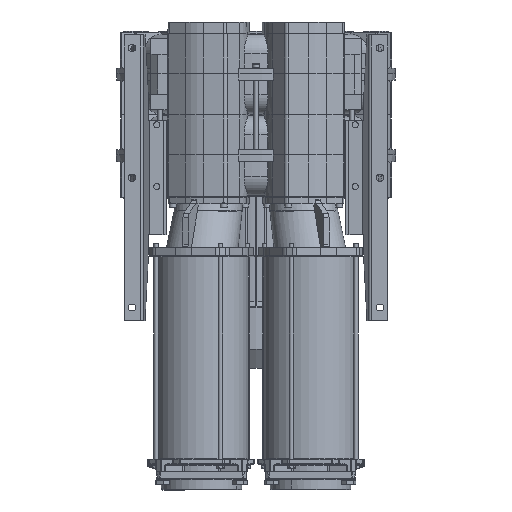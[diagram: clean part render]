
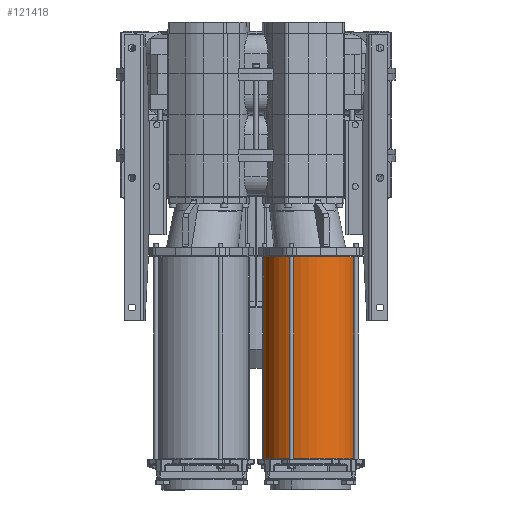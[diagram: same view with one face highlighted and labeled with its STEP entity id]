
A CAD part, front view. The second image highlights one B-rep face of the part: STEP entity #121418.
In plain terms, the highlighted cylindrical face has radius 90 mm (diameter 180 mm), a full revolution.
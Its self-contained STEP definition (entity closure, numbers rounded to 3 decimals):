
#14040 = VERTEX_POINT ( 'NONE', #108750 ) ;
#20141 = DIRECTION ( 'NONE',  ( 0., 0., 1. ) ) ;
#20564 = EDGE_CURVE ( 'NONE', #126321, #126321, #138572, .T. ) ;
#30412 = ORIENTED_EDGE ( 'NONE', *, *, #20564, .T. ) ;
#35768 = CIRCLE ( 'NONE', #65590, 90. ) ;
#39186 = CARTESIAN_POINT ( 'NONE',  ( 104.777, -252.953, -415.5 ) ) ;
#41919 = FACE_OUTER_BOUND ( 'NONE', #118756, .T. ) ;
#55857 = CARTESIAN_POINT ( 'NONE',  ( 104.777, -252.953, -416. ) ) ;
#56625 = DIRECTION ( 'NONE',  ( -0.665, -0.747, 0. ) ) ;
#65590 = AXIS2_PLACEMENT_3D ( 'NONE', #142727, #96136, #96893 ) ;
#72406 = EDGE_LOOP ( 'NONE', ( #30412 ) ) ;
#74116 = DIRECTION ( 'NONE',  ( 0.665, 0.747, 0. ) ) ;
#88299 = CARTESIAN_POINT ( 'NONE',  ( 164.658, -185.766, -415.5 ) ) ;
#96136 = DIRECTION ( 'NONE',  ( 0., 0., -1. ) ) ;
#96893 = DIRECTION ( 'NONE',  ( 0.665, 0.747, 0. ) ) ;
#100405 = DIRECTION ( 'NONE',  ( 0., 0., 1. ) ) ;
#102512 = ORIENTED_EDGE ( 'NONE', *, *, #117071, .T. ) ;
#108750 = CARTESIAN_POINT ( 'NONE',  ( 164.658, -185.766, -26.5 ) ) ;
#110608 = AXIS2_PLACEMENT_3D ( 'NONE', #55857, #20141, #56625 ) ;
#117071 = EDGE_CURVE ( 'NONE', #14040, #14040, #35768, .T. ) ;
#118756 = EDGE_LOOP ( 'NONE', ( #102512 ) ) ;
#121418 = ADVANCED_FACE ( 'NONE', ( #41919, #125771 ), #136618, .T. ) ;
#125771 = FACE_OUTER_BOUND ( 'NONE', #72406, .T. ) ;
#126321 = VERTEX_POINT ( 'NONE', #88299 ) ;
#136618 = CYLINDRICAL_SURFACE ( 'NONE', #110608, 90. ) ;
#138572 = CIRCLE ( 'NONE', #148425, 90. ) ;
#142727 = CARTESIAN_POINT ( 'NONE',  ( 104.777, -252.953, -26.5 ) ) ;
#148425 = AXIS2_PLACEMENT_3D ( 'NONE', #39186, #100405, #74116 ) ;
